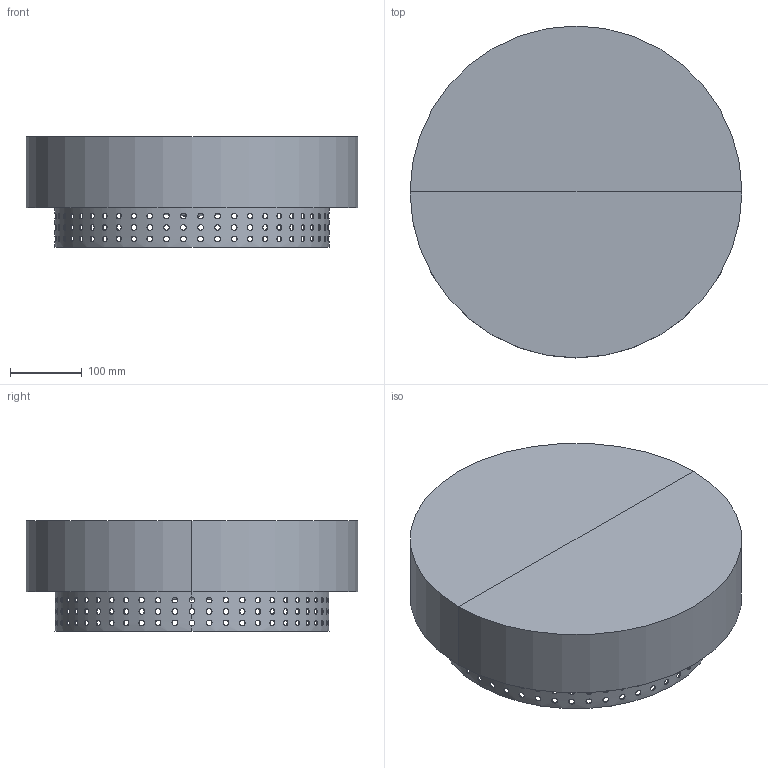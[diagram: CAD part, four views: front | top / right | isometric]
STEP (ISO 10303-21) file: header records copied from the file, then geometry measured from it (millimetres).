
FILE_DESCRIPTION(/* description */ (''),/* implementation_level */ '2;1');
FILE_NAME(/* name */ 'Morsen Ceiling Lamp',/* time_stamp */ '2026-06-01T16:27:20+08:00',/* author */ (''),/* organization */ (''),/* preprocessor_version */ 'ST-DEVELOPER v19.2',/* originating_system */ 'Rhino 8.25',/* authorisation */ '');
FILE_SCHEMA (('CONFIG_CONTROL_DESIGN'));
Length unit declared in the file: millimetre
Products named in the file (1): Document
Bounding box: 464.09 x 464.09 x 155.21 mm (x, y, z)
Volume: 4549532.4 mm3; surface area: 1069276 mm2
Topology: 2 solids, 3 shells, 820 faces, 2504 edges, 1653 vertices
Faces by surface type: bspline 802, plane 10, cylinder 8
Entity records: 80711 total; most frequent: CARTESIAN_POINT 64068, ORIENTED_EDGE 5002, EDGE_CURVE 2502, B_SPLINE_CURVE_WITH_KNOTS 2445, VERTEX_POINT 1653, EDGE_LOOP 1588, ADVANCED_FACE 820, FACE_OUTER_BOUND 820
